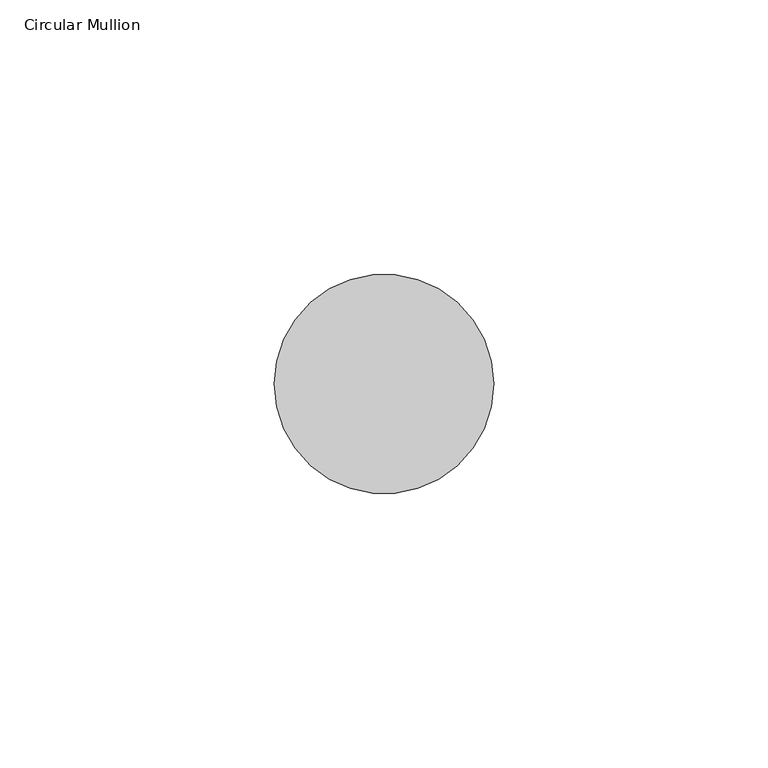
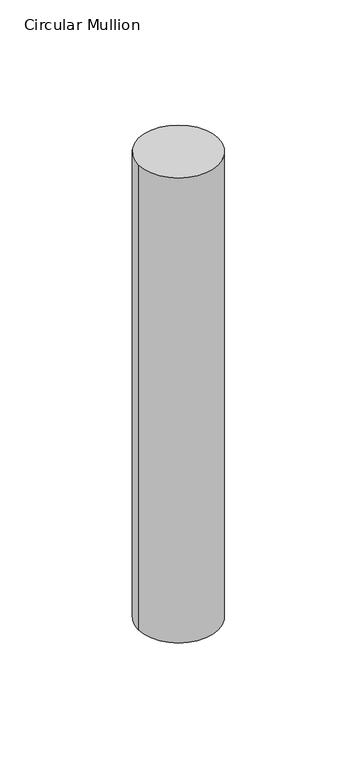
"""IFC4 building model written with IfcOpenShell, lengths in millimetres: member geometry, Circular Mullion : GRADIL 40mm."""

import ifcopenshell
import ifcopenshell.guid

model = None  # the IFC model being written
_history = None  # IfcOwnerHistory: only IFC2X3 demands one
_inside = {}  # id of a spatial element -> (the spatial element, [elements in it])
_under = {}  # id of a project, library or spatial element -> (it, [spatial elements below it])
_declared = {}  # id of a project -> (the project, [libraries it declares])
_typed = {}  # id of a type object -> (the type object, [elements of that type])
_made_of = {}  # id of a material, layer set ... -> (it, [elements and type objects made of it])


def new_model(schema):
    """Start an empty IFC model of exactly this schema.

    Asked for "IFC4X3", IfcOpenShell would pick the latest addendum, in which some entities
    have other attributes; the version numbers below select the first issue.
    IFC2X3 requires an IfcOwnerHistory on every rooted entity: one is made here for all.
    """
    global model, _history
    if schema == "IFC4X3":
        model = ifcopenshell.file(schema_version=(4, 3, 0, 0))
    else:
        model = ifcopenshell.file(schema=schema)
    _inside.clear()
    _under.clear()
    _declared.clear()
    _typed.clear()
    _made_of.clear()
    _history = None
    if model.schema == "IFC2X3":
        org = make("IfcOrganization", Name="unknown")
        user = make(
            "IfcPersonAndOrganization",
            ThePerson=make("IfcPerson", FamilyName="unknown"),
            TheOrganization=org,
        )
        app = make(
            "IfcApplication",
            ApplicationDeveloper=org,
            Version="unknown",
            ApplicationFullName="unknown",
            ApplicationIdentifier="unknown",
        )
        _history = make(
            "IfcOwnerHistory",
            OwningUser=user,
            OwningApplication=app,
            ChangeAction="ADDED",
            CreationDate=0,
        )
    return model


def make(cls, **values):
    """One entity of the class cls with the attributes given. An attribute that is None is left unset."""
    return model.create_entity(
        cls, **{name: value for name, value in values.items() if value is not None}
    )


def rooted(cls, **values):
    """An entity with a GlobalId (a new one), such as an element, a storey or a relation."""
    return make(cls, GlobalId=ifcopenshell.guid.new(), OwnerHistory=_history, **values)


def si_unit(unit_type, name, prefix=None):
    """IfcSIUnit, for example si_unit("LENGTHUNIT", "METRE", prefix="MILLI")."""
    return make("IfcSIUnit", UnitType=unit_type, Prefix=prefix, Name=name)


def assignment(units):
    """IfcUnitAssignment: the units of a project."""
    return None if units is None else make("IfcUnitAssignment", Units=units)


def point(xyz):
    """IfcCartesianPoint."""
    return None if xyz is None else make("IfcCartesianPoint", Coordinates=xyz)


def direction(xyz):
    """IfcDirection."""
    return None if xyz is None else make("IfcDirection", DirectionRatios=xyz)


def frame(location, z_axis=None, x_axis=None):
    """IfcAxis2Placement3D, a coordinate frame: its origin and axes. An axis left out is left unset."""
    return make(
        "IfcAxis2Placement3D",
        Location=point(location),
        Axis=direction(z_axis),
        RefDirection=direction(x_axis),
    )


def frame_2d(location, x_axis=None):
    """IfcAxis2Placement2D, a coordinate frame in the plane: its origin and x axis."""
    return make(
        "IfcAxis2Placement2D", Location=point(location), RefDirection=direction(x_axis)
    )


def origin():
    """The frame at (0, 0, 0) with its axes left unset."""
    return frame((0.0, 0.0, 0.0))


def origin_2d():
    """The frame at (0, 0) in the plane with its x axis left unset."""
    return frame_2d((0.0, 0.0))


def place(relative_to, where):
    """IfcLocalPlacement: puts the frame where relative to a parent placement (None: the world)."""
    return make(
        "IfcLocalPlacement", PlacementRelTo=relative_to, RelativePlacement=where
    )


def context(
    kind, dimensions, precision=None, world=None, true_north=None, identifier=None
):
    """IfcGeometricRepresentationContext, for example the 3D "Model" context."""
    return make(
        "IfcGeometricRepresentationContext",
        ContextIdentifier=identifier,
        ContextType=kind,
        CoordinateSpaceDimension=dimensions,
        Precision=precision,
        WorldCoordinateSystem=world,
        TrueNorth=true_north,
    )


def project(units=None, contexts=None):
    """IfcProject with its units and contexts."""
    return rooted(
        "IfcProject",
        Name="project",
        RepresentationContexts=contexts,
        UnitsInContext=assignment(units),
    )


def spatial(cls, under=None, at=None, **own):
    """A site, building, storey or space (cls), placed at a placement, below another one or the project."""
    s = rooted(cls, ObjectPlacement=at, **own)
    if under is not None:
        _under.setdefault(under.id(), (under, []))[1].append(s)
    return s


def circle_curve(where, radius):
    """IfcCircle in the frame where."""
    return make("IfcCircle", Position=where, Radius=radius)


def trimmed(basis, trim1, trim2, sense, master):
    """IfcTrimmedCurve: the piece of a basis curve between two trims."""
    return make(
        "IfcTrimmedCurve",
        BasisCurve=basis,
        Trim1=trim1,
        Trim2=trim2,
        SenseAgreement=sense,
        MasterRepresentation=master,
    )


def segment(curve, same_sense, transition):
    """IfcCompositeCurveSegment."""
    return make(
        "IfcCompositeCurveSegment",
        Transition=transition,
        SameSense=same_sense,
        ParentCurve=curve,
    )


def composite_curve(segments, self_intersect=None):
    """IfcCompositeCurve: segments joined end to end."""
    return make("IfcCompositeCurve", Segments=segments, SelfIntersect=self_intersect)


def outline(outer, holes=None, kind="AREA"):
    """IfcArbitraryClosedProfileDef: a profile drawn as a closed curve; with holes, ...WithVoids."""
    if holes is None:
        return make("IfcArbitraryClosedProfileDef", ProfileType=kind, OuterCurve=outer)
    return make(
        "IfcArbitraryProfileDefWithVoids",
        ProfileType=kind,
        OuterCurve=outer,
        InnerCurves=holes,
    )


def extrude(swept, where, along, depth):
    """IfcExtrudedAreaSolid: the profile swept, set in the frame where, extruded along a direction by depth."""
    return make(
        "IfcExtrudedAreaSolid",
        SweptArea=swept,
        Position=where,
        ExtrudedDirection=direction(along),
        Depth=depth,
    )


def shape(context_of_items, identifier, shape_type, items):
    """IfcShapeRepresentation: the items that make up one representation, for example the "Body"."""
    return make(
        "IfcShapeRepresentation",
        ContextOfItems=context_of_items,
        RepresentationIdentifier=identifier,
        RepresentationType=shape_type,
        Items=items,
    )


def source(mapping_origin, context_of_items, identifier, shape_type, items):
    """IfcRepresentationMap: a shape defined once, which mapped items show again and again."""
    return make(
        "IfcRepresentationMap",
        MappingOrigin=mapping_origin,
        MappedRepresentation=shape(context_of_items, identifier, shape_type, items),
    )


def transform(
    local_origin,
    x_axis=None,
    y_axis=None,
    z_axis=None,
    scale=None,
    scale2=None,
    scale3=None,
    uniform=True,
):
    """IfcCartesianTransformationOperator3D, or its non-uniform kind. x_axis, y_axis, z_axis: its Axis1, 2, 3."""
    if uniform:
        return make(
            "IfcCartesianTransformationOperator3D",
            Axis1=direction(x_axis),
            Axis2=direction(y_axis),
            LocalOrigin=point(local_origin),
            Scale=scale,
            Axis3=direction(z_axis),
        )
    return make(
        "IfcCartesianTransformationOperator3DnonUniform",
        Axis1=direction(x_axis),
        Axis2=direction(y_axis),
        LocalOrigin=point(local_origin),
        Scale=scale,
        Axis3=direction(z_axis),
        Scale2=scale2,
        Scale3=scale3,
    )


def mapped(mapping_source, mapping_target):
    """IfcMappedItem: shows the shape of a source again, moved by a transform."""
    return make(
        "IfcMappedItem", MappingSource=mapping_source, MappingTarget=mapping_target
    )


def made_of(thing, what):
    """Note that an element or type object is made of a material, layer set ...; save() writes the relation."""
    if what is not None:
        _made_of.setdefault(what.id(), (what, []))[1].append(thing)
    return thing


def element(
    cls,
    number,
    at=None,
    inside=None,
    cuts=None,
    type_object=None,
    material=None,
    context=None,
    identifier="Body",
    shape_type=None,
    held_by="IfcProductDefinitionShape",
    body=None,
    shapes=None,
    **own,
):
    """One element of the class cls, such as IfcWall. Its Tag is "e" and its number.

    at: its placement. inside: the storey or other place that contains it. cuts: it is an
    opening in that element (IfcRelVoidsElement). A single representation is given by context,
    identifier, shape_type and body (its items); several are given by shapes. held_by: the class
    of the entity that holds the representations. save() writes the other relations.
    """
    e = rooted(cls, Tag="e%d" % number, ObjectPlacement=at, **own)
    if body is not None:
        shapes = [shape(context, identifier, shape_type, body)]
    if shapes is not None:
        e.Representation = make(held_by, Representations=shapes)
    if inside is not None:
        _inside.setdefault(inside.id(), (inside, []))[1].append(e)
    if cuts is not None:
        rooted(
            "IfcRelVoidsElement", RelatingBuildingElement=cuts, RelatedOpeningElement=e
        )
    if type_object is not None:
        _typed.setdefault(type_object.id(), (type_object, []))[1].append(e)
    return made_of(e, material)


def aggregate(whole, parts):
    """IfcRelAggregates: a whole, such as a stair, and the parts it consists of."""
    return rooted("IfcRelAggregates", RelatingObject=whole, RelatedObjects=parts)


def save(model, path):
    """Write the relations noted so far, then the file.

    IfcRelAggregates (storeys below a building ...), IfcRelContainedInSpatialStructure (elements
    in a storey), IfcRelDefinesByType, IfcRelAssociatesMaterial and IfcRelDeclares: one each for
    every whole, place, type object, material and project.
    """
    for whole, parts in _under.values():
        aggregate(whole, parts)
    for where, things in _inside.values():
        rooted(
            "IfcRelContainedInSpatialStructure",
            RelatedElements=things,
            RelatingStructure=where,
        )
    for kind, things in _typed.values():
        rooted("IfcRelDefinesByType", RelatedObjects=things, RelatingType=kind)
    for what, things in _made_of.values():
        rooted("IfcRelAssociatesMaterial", RelatedObjects=things, RelatingMaterial=what)
    for by, libraries in _declared.values():
        rooted("IfcRelDeclares", RelatingContext=by, RelatedDefinitions=libraries)
    model.write(path)


def circular_mullion_19b831f5(model_context):
    return source(origin(), model_context, "Body", "SweptSolid", [
        extrude(outline(composite_curve([segment(trimmed(circle_curve(origin_2d(), 20.0), [point((20.0, 0.0))], [point((-20.0, 0.0))], False, "CARTESIAN"), True, "CONTINUOUS"), segment(trimmed(circle_curve(origin_2d(), 20.0), [point((-20.0, 0.0))], [point((20.0, 0.0))], False, "CARTESIAN"), True, "CONTINUOUS")], self_intersect=False)), frame((0.0, 0.0, -245.9861386), z_axis=(0.0, 0.0, 1.0), x_axis=(1.0, 0.0, 0.0)), (0.0, 0.0, 1.0), 245.9861386),
    ])


if __name__ == "__main__":
    model = new_model("IFC4")
    model_context = context("Model", 3, world=origin())
    ifc_project = project(units=[si_unit("LENGTHUNIT", "METRE", prefix="MILLI")], contexts=[model_context])
    site = spatial("IfcSite", under=ifc_project)
    building = spatial("IfcBuilding", under=site)
    placement = place(None, origin())
    circular_mullion_shape = circular_mullion_19b831f5(model_context)
    element("IfcMember", 1, ObjectType="Circular Mullion : GRADIL 40mm", at=placement, inside=building, context=model_context, shape_type="MappedRepresentation", body=[
        mapped(circular_mullion_shape, transform((0.0, 0.0, 0.0), x_axis=(1.0, 0.0, 0.0), y_axis=(0.0, 1.0, 0.0), z_axis=(0.0, 0.0, 1.0))),
    ])
    save(model, "model.ifc")
